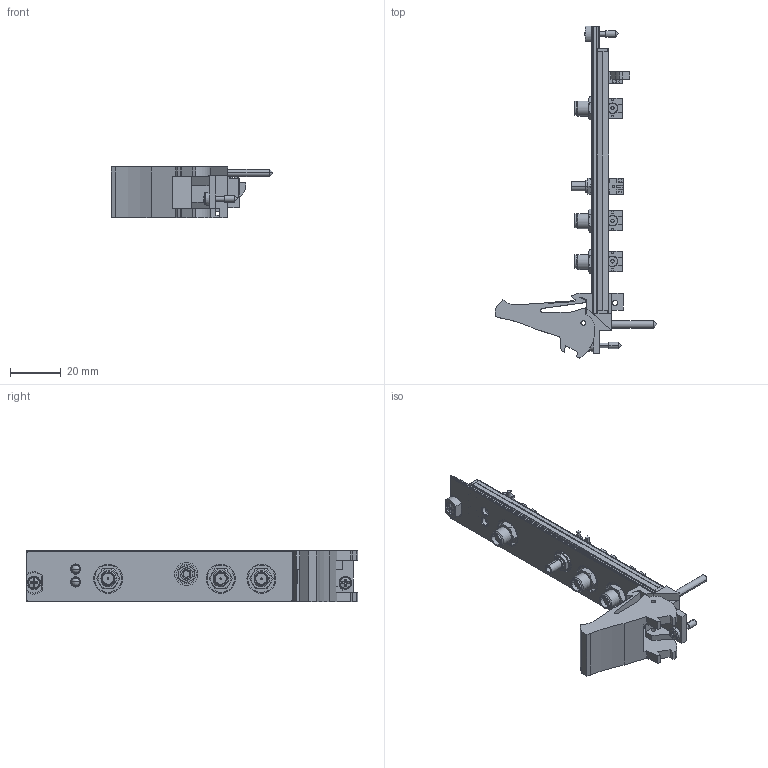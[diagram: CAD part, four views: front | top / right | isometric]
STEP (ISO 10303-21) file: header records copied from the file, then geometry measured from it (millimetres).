
FILE_DESCRIPTION((''),'2;1');
FILE_NAME('CU_PXIE-5622','2009-09-22T',('jjorden'),(''),'PRO/ENGINEER BY PARAMETRIC TECHNOLOGY CORPORATION, 2006080','PRO/ENGINEER BY PARAMETRIC TECHNOLOGY CORPORATION, 2006080','');
FILE_SCHEMA(('CONFIG_CONTROL_DESIGN'));
Length unit declared in the file: inch
Products named in the file (1): CU_PXIE-5622
Bounding box: 63.53 x 130.5 x 20.31 mm (x, y, z)
Volume: 18656.5 mm3; surface area: 18926.5 mm2
Topology: 6 solids, 6 shells, 773 faces, 1990 edges, 1258 vertices
Faces by surface type: plane 462, cylinder 209, cone 48, torus 46, sphere 8
Entity records: 24626 total; most frequent: CARTESIAN_POINT 5343, DIRECTION 4091, ORIENTED_EDGE 3964, EDGE_CURVE 1982, AXIS2_PLACEMENT_3D 1413, VECTOR 1265, LINE 1265, VERTEX_POINT 1258
